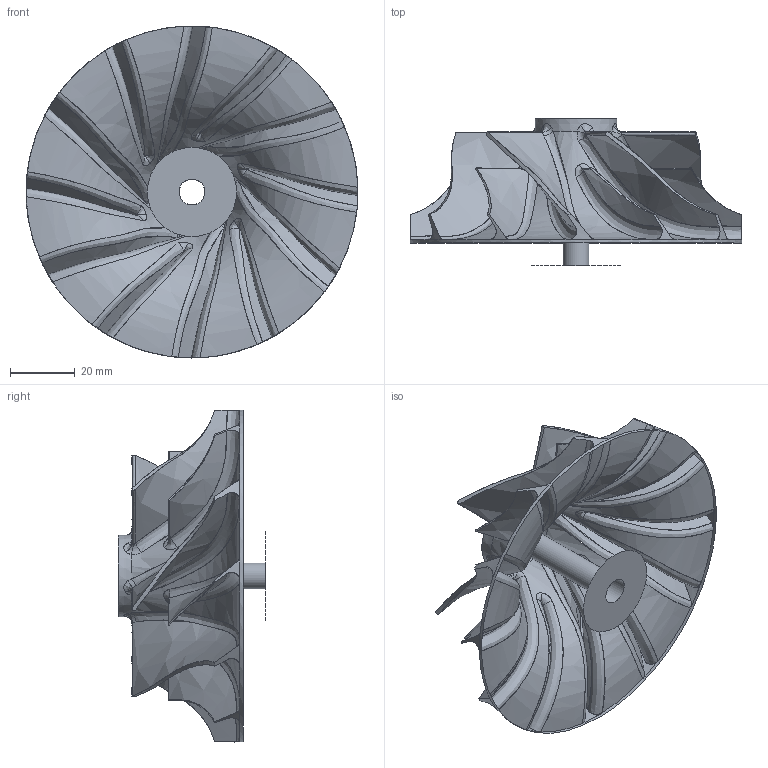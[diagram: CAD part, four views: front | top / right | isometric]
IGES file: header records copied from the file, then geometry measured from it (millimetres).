
Start section: SolidWorks IGES file using analytic representation for surfaces
Global section: file name: C:\Users\Trnde\Desktop\77mm Comp wheel.IGS; native system: SolidWorks 2020; preprocessor: SolidWorks 2020; author: TimothyRay; date: 210702.120551; units: millimetre
Bounding box: 102.35 x 45.5 x 102.35 mm (x, y, z)
Surface area: 27817.6 mm2 (no closed solid volume)
Topology: 0 solids, 0 shells, 175 faces, 3514 edges, 3953 vertices
Faces by surface type: bspline 160, revolution 15
